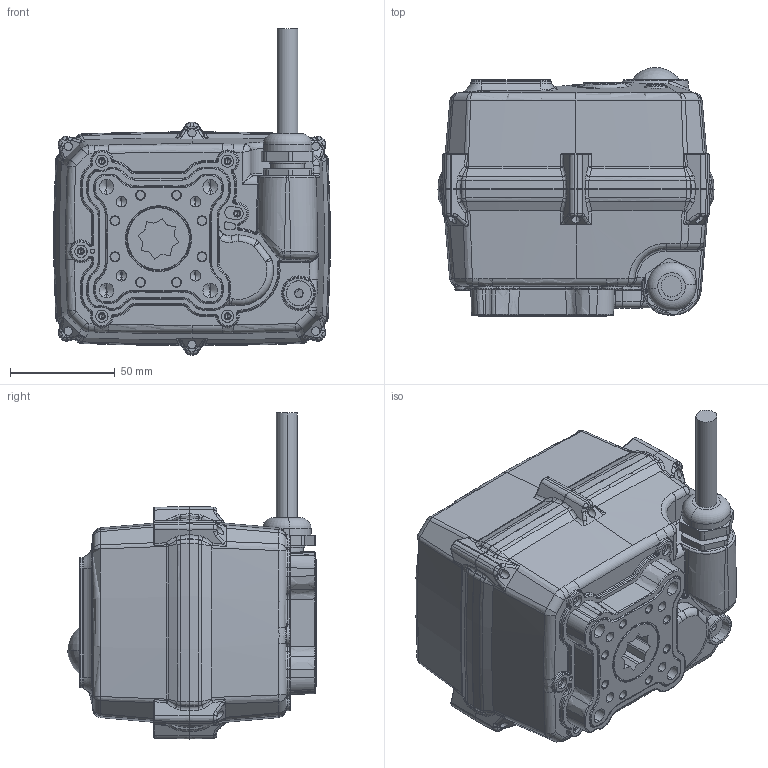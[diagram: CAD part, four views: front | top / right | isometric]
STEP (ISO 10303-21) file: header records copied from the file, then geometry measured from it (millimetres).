
FILE_DESCRIPTION (( 'STEP AP203' ), '1' );
FILE_NAME ('装配体05ABS-仅外壳-无窗.STEP', '2019-07-13T00:18:49', ( 'china' ), ( 'china' ), 'SwSTEP 2.0', 'SolidWorks 2018', '' );
FILE_SCHEMA (( 'CONFIG_CONTROL_DESIGN' ));
Length unit declared in the file: millimetre
Products named in the file (13): TCR05_铝底座-增加中心距; ABS俋褲噩え俋褲; 6806ZZ峚倰粣創; 忒雄粣蚐猾18x10x4; 喘謫怀堤-囀匐源-II; 忒雄粣-TCR05; 输出轴轴承垫圈; 装配体05ABS-仅外壳-无窗; F699ZZ楊擘粣創R20-9; TCR05-硒俴ん奻裔-ABS-拸敦; TCR05-执行器下盖-ABS-增加中心距; M20-踢扽坶譫; 怀堤粣蚐猾30x37x4
Assembly tree (12 placements, depth 2):
  装配体05ABS-仅外壳-无窗
    TCR05_铝底座-增加中心距
    6806ZZ峚倰粣創
    喘謫怀堤-囀匐源-II
    输出轴轴承垫圈
    F699ZZ楊擘粣創R20-9
    TCR05-硒俴ん奻裔-ABS-拸敦
    TCR05-执行器下盖-ABS-增加中心距
    M20-踢扽坶譫
    怀堤粣蚐猾30x37x4
    ABS俋褲噩え俋褲
    忒雄粣蚐猾18x10x4
    忒雄粣-TCR05
Bounding box: 131.78 x 118.72 x 155.6 mm (x, y, z)
Volume: 330084.9 mm3; surface area: 202081 mm2
Topology: 12 solids, 13 shells, 3520 faces, 8922 edges, 5498 vertices
Faces by surface type: cylinder 1153, bspline 909, plane 709, cone 470, torus 253, sphere 26
Entity records: 141703 total; most frequent: CARTESIAN_POINT 64560, ORIENTED_EDGE 17716, DIRECTION 13418, EDGE_CURVE 8858, VERTEX_POINT 5498, AXIS2_PLACEMENT_3D 5272, EDGE_LOOP 3720, ADVANCED_FACE 3520
